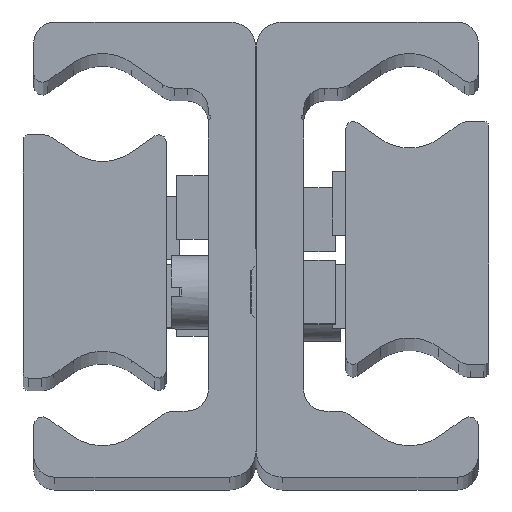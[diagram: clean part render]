
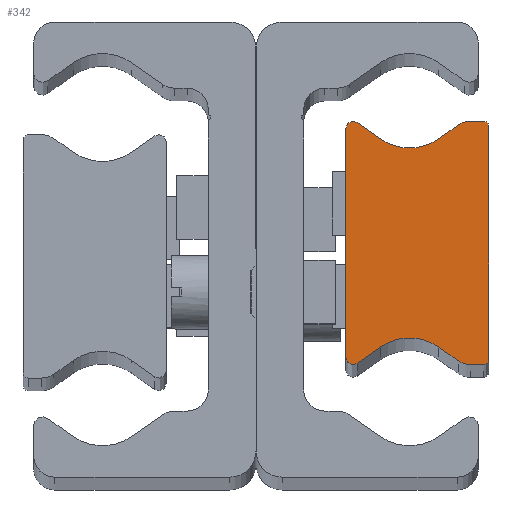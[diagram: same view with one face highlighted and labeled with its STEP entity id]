
A CAD part, top view. The second image highlights one B-rep face of the part: STEP entity #342.
In plain terms, the highlighted planar face has unit normal (0, 0, 1) as drawn and (0, 0, -1) by its records, which use the part's own axes.
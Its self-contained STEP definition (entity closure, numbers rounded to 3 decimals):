
#342 = ADVANCED_FACE( '', ( #774 ), #775, .F. );
#774 = FACE_OUTER_BOUND( '', #1364, .T. );
#775 = PLANE( '', #1365 );
#1364 = EDGE_LOOP( '', ( #2176, #2177, #2178, #2179, #2180, #2181, #2182, #2183, #2184, #2185, #2186, #2187, #2188, #2189, #2190, #2191 ) );
#1365 = AXIS2_PLACEMENT_3D( '', #2192, #2193, #2194 );
#2176 = ORIENTED_EDGE( '', *, *, #3312, .F. );
#2177 = ORIENTED_EDGE( '', *, *, #3313, .F. );
#2178 = ORIENTED_EDGE( '', *, *, #3258, .F. );
#2179 = ORIENTED_EDGE( '', *, *, #3314, .F. );
#2180 = ORIENTED_EDGE( '', *, *, #3315, .F. );
#2181 = ORIENTED_EDGE( '', *, *, #3132, .T. );
#2182 = ORIENTED_EDGE( '', *, *, #3101, .F. );
#2183 = ORIENTED_EDGE( '', *, *, #3316, .F. );
#2184 = ORIENTED_EDGE( '', *, *, #3282, .F. );
#2185 = ORIENTED_EDGE( '', *, *, #3317, .F. );
#2186 = ORIENTED_EDGE( '', *, *, #3318, .F. );
#2187 = ORIENTED_EDGE( '', *, *, #3319, .T. );
#2188 = ORIENTED_EDGE( '', *, *, #3295, .F. );
#2189 = ORIENTED_EDGE( '', *, *, #3088, .F. );
#2190 = ORIENTED_EDGE( '', *, *, #3320, .F. );
#2191 = ORIENTED_EDGE( '', *, *, #3321, .F. );
#2192 = CARTESIAN_POINT( '', ( 0.5, -11., -690. ) );
#2193 = DIRECTION( '', ( 0., 0., 1. ) );
#2194 = DIRECTION( '', ( 1., 0., 0. ) );
#3088 = EDGE_CURVE( '', #3584, #3586, #3587, .T. );
#3101 = EDGE_CURVE( '', #3607, #3609, #3610, .T. );
#3132 = EDGE_CURVE( '', #3662, #3609, #3663, .T. );
#3258 = EDGE_CURVE( '', #3876, #3878, #3879, .T. );
#3282 = EDGE_CURVE( '', #3917, #3919, #3920, .T. );
#3295 = EDGE_CURVE( '', #3586, #3938, #3939, .T. );
#3312 = EDGE_CURVE( '', #3967, #3968, #3969, .T. );
#3313 = EDGE_CURVE( '', #3878, #3967, #3970, .T. );
#3314 = EDGE_CURVE( '', #3971, #3876, #3972, .T. );
#3315 = EDGE_CURVE( '', #3662, #3971, #3973, .T. );
#3316 = EDGE_CURVE( '', #3919, #3607, #3974, .T. );
#3317 = EDGE_CURVE( '', #3975, #3917, #3976, .T. );
#3318 = EDGE_CURVE( '', #3977, #3975, #3978, .T. );
#3319 = EDGE_CURVE( '', #3977, #3938, #3979, .T. );
#3320 = EDGE_CURVE( '', #3980, #3584, #3981, .T. );
#3321 = EDGE_CURVE( '', #3968, #3980, #3982, .T. );
#3584 = VERTEX_POINT( '', #4326 );
#3586 = VERTEX_POINT( '', #4329 );
#3587 = CIRCLE( '', #4330, 2. );
#3607 = VERTEX_POINT( '', #4356 );
#3609 = VERTEX_POINT( '', #4359 );
#3610 = LINE( '', #4360, #4361 );
#3662 = VERTEX_POINT( '', #4424 );
#3663 = CIRCLE( '', #4425, 4.763 );
#3876 = VERTEX_POINT( '', #4701 );
#3878 = VERTEX_POINT( '', #4704 );
#3879 = LINE( '', #4705, #4706 );
#3917 = VERTEX_POINT( '', #4748 );
#3919 = VERTEX_POINT( '', #4751 );
#3920 = LINE( '', #4752, #4753 );
#3938 = VERTEX_POINT( '', #4779 );
#3939 = LINE( '', #4780, #4781 );
#3967 = VERTEX_POINT( '', #4816 );
#3968 = VERTEX_POINT( '', #4817 );
#3969 = LINE( '', #4818, #4819 );
#3970 = CIRCLE( '', #4820, 0.5 );
#3971 = VERTEX_POINT( '', #4821 );
#3972 = CIRCLE( '', #4822, 2. );
#3973 = LINE( '', #4823, #4824 );
#3974 = CIRCLE( '', #4825, 0.668 );
#3975 = VERTEX_POINT( '', #4826 );
#3976 = CIRCLE( '', #4827, 0.668 );
#3977 = VERTEX_POINT( '', #4828 );
#3978 = LINE( '', #4829, #4830 );
#3979 = CIRCLE( '', #4831, 4.763 );
#3980 = VERTEX_POINT( '', #4832 );
#3981 = LINE( '', #4833, #4834 );
#3982 = CIRCLE( '', #4835, 0.5 );
#4326 = CARTESIAN_POINT( '', ( 1.748, -11.5, -690. ) );
#4329 = CARTESIAN_POINT( '', ( 2.895, -11.138, -690. ) );
#4330 = AXIS2_PLACEMENT_3D( '', #5265, #5266, #5267 );
#4356 = CARTESIAN_POINT( '', ( 12.449, 11.379, -690. ) );
#4359 = CARTESIAN_POINT( '', ( 10.232, 9.827, -690. ) );
#4360 = CARTESIAN_POINT( '', ( 12.449, 11.379, -690. ) );
#4361 = VECTOR( '', #5281, 1000. );
#4424 = CARTESIAN_POINT( '', ( 4.768, 9.827, -690. ) );
#4425 = AXIS2_PLACEMENT_3D( '', #5326, #5327, #5328 );
#4701 = CARTESIAN_POINT( '', ( 1.748, 11.5, -690. ) );
#4704 = CARTESIAN_POINT( '', ( 0.5, 11.5, -690. ) );
#4705 = CARTESIAN_POINT( '', ( 1.748, 11.5, -690. ) );
#4706 = VECTOR( '', #5507, 1000. );
#4748 = CARTESIAN_POINT( '', ( 13.5, -10.832, -690. ) );
#4751 = CARTESIAN_POINT( '', ( 13.5, 10.832, -690. ) );
#4752 = CARTESIAN_POINT( '', ( 13.5, -10.832, -690. ) );
#4753 = VECTOR( '', #5552, 1000. );
#4779 = CARTESIAN_POINT( '', ( 4.768, -9.827, -690. ) );
#4780 = CARTESIAN_POINT( '', ( 2.895, -11.138, -690. ) );
#4781 = VECTOR( '', #5564, 1000. );
#4816 = CARTESIAN_POINT( '', ( 0., 11., -690. ) );
#4817 = CARTESIAN_POINT( '', ( 0., -11., -690. ) );
#4818 = CARTESIAN_POINT( '', ( 0., 11., -690. ) );
#4819 = VECTOR( '', #5593, 1000. );
#4820 = AXIS2_PLACEMENT_3D( '', #5594, #5595, #5596 );
#4821 = CARTESIAN_POINT( '', ( 2.895, 11.138, -690. ) );
#4822 = AXIS2_PLACEMENT_3D( '', #5597, #5598, #5599 );
#4823 = CARTESIAN_POINT( '', ( 4.768, 9.827, -690. ) );
#4824 = VECTOR( '', #5600, 1000. );
#4825 = AXIS2_PLACEMENT_3D( '', #5601, #5602, #5603 );
#4826 = CARTESIAN_POINT( '', ( 12.449, -11.379, -690. ) );
#4827 = AXIS2_PLACEMENT_3D( '', #5604, #5605, #5606 );
#4828 = CARTESIAN_POINT( '', ( 10.232, -9.827, -690. ) );
#4829 = CARTESIAN_POINT( '', ( 10.232, -9.827, -690. ) );
#4830 = VECTOR( '', #5607, 1000. );
#4831 = AXIS2_PLACEMENT_3D( '', #5608, #5609, #5610 );
#4832 = CARTESIAN_POINT( '', ( 0.5, -11.5, -690. ) );
#4833 = CARTESIAN_POINT( '', ( 0.5, -11.5, -690. ) );
#4834 = VECTOR( '', #5611, 1000. );
#4835 = AXIS2_PLACEMENT_3D( '', #5612, #5613, #5614 );
#5265 = CARTESIAN_POINT( '', ( 1.748, -9.5, -690. ) );
#5266 = DIRECTION( '', ( 0., 0., 1. ) );
#5267 = DIRECTION( '', ( 1., 0., 0. ) );
#5281 = DIRECTION( '', ( -0.819, -0.574, 0. ) );
#5326 = CARTESIAN_POINT( '', ( 7.5, 13.729, -690. ) );
#5327 = DIRECTION( '', ( 0., 0., 1. ) );
#5328 = DIRECTION( '', ( 1., 0., 0. ) );
#5507 = DIRECTION( '', ( -1., 0., 0. ) );
#5552 = DIRECTION( '', ( 0., 1., 0. ) );
#5564 = DIRECTION( '', ( 0.819, 0.574, 0. ) );
#5593 = DIRECTION( '', ( 0., -1., 0. ) );
#5594 = CARTESIAN_POINT( '', ( 0.5, 11., -690. ) );
#5595 = DIRECTION( '', ( 0., 0., 1. ) );
#5596 = DIRECTION( '', ( 1., 0., 0. ) );
#5597 = CARTESIAN_POINT( '', ( 1.748, 9.5, -690. ) );
#5598 = DIRECTION( '', ( 0., 0., 1. ) );
#5599 = DIRECTION( '', ( 1., 0., 0. ) );
#5600 = DIRECTION( '', ( -0.819, 0.574, 0. ) );
#5601 = CARTESIAN_POINT( '', ( 12.832, 10.832, -690. ) );
#5602 = DIRECTION( '', ( 0., 0., 1. ) );
#5603 = DIRECTION( '', ( 1., 0., 0. ) );
#5604 = CARTESIAN_POINT( '', ( 12.832, -10.832, -690. ) );
#5605 = DIRECTION( '', ( 0., 0., 1. ) );
#5606 = DIRECTION( '', ( 1., 0., 0. ) );
#5607 = DIRECTION( '', ( 0.819, -0.574, 0. ) );
#5608 = CARTESIAN_POINT( '', ( 7.5, -13.729, -690. ) );
#5609 = DIRECTION( '', ( 0., 0., 1. ) );
#5610 = DIRECTION( '', ( 1., 0., 0. ) );
#5611 = DIRECTION( '', ( 1., 0., 0. ) );
#5612 = CARTESIAN_POINT( '', ( 0.5, -11., -690. ) );
#5613 = DIRECTION( '', ( 0., 0., 1. ) );
#5614 = DIRECTION( '', ( 1., 0., 0. ) );
